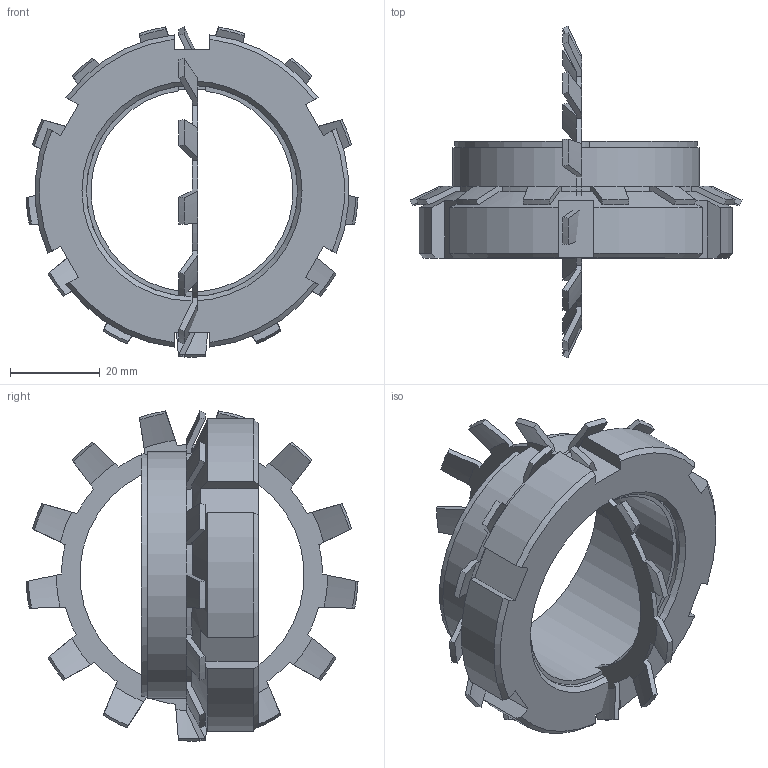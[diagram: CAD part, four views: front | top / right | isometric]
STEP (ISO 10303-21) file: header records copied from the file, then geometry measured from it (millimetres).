
FILE_DESCRIPTION( ( 'Unknown' ), '1' );
FILE_NAME( 'C:/Dokumente und Einstellungen/Sven/Desktop/homepage/cad - homepage/KBS51/KBS 51 - 45 x 55.stp', 'Unknown', ( 'Unknown' ), ( 'Unknown' ), 'XStep 1.0', 'Unknown', ' ' );
FILE_SCHEMA( ( 'automotive_design' ) );
Length unit declared in the file: millimetre
Products named in the file (3): Assem1; KBS 51 - 45 x 55; 08570105_locking_plate_din_5406_mb_10_2_14a
Bounding box: 73.94 x 73.94 x 73.51 mm (x, y, z)
Volume: 76398.3 mm3; surface area: 32968.9 mm2
Topology: 4 solids, 4 shells, 260 faces, 748 edges, 496 vertices
Faces by surface type: plane 116, cone 98, cylinder 46
Full cylindrical faces by diameter (mm): 47 x2, 55 x2
Entity records: 4706 total; most frequent: CARTESIAN_POINT 981, ORIENTED_EDGE 736, DIRECTION 686, EDGE_CURVE 368, AXIS2_PLACEMENT_3D 269, VERTEX_POINT 246, LINE 148, VECTOR 148
